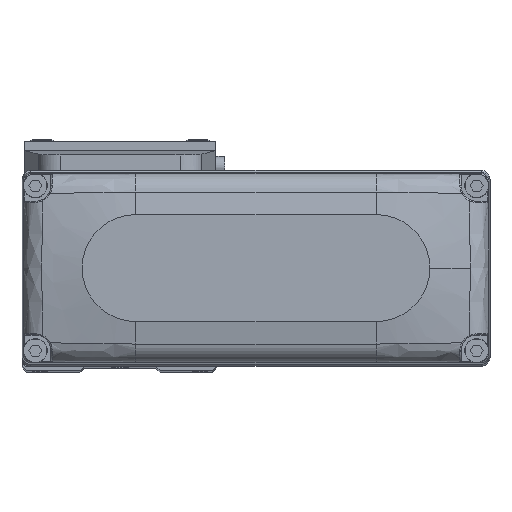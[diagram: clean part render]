
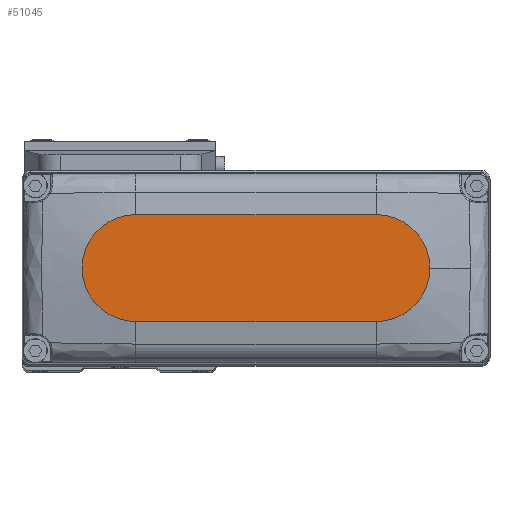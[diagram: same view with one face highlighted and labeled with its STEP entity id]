
A CAD part, top view. The second image highlights one B-rep face of the part: STEP entity #51045.
In plain terms, the highlighted planar face has unit normal (0, 0, 1).
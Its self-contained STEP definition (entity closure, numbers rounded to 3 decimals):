
#574 = EDGE_CURVE ( 'NONE', #75631, #54380, #63218, .T. ) ;
#3008 = DIRECTION ( 'NONE',  ( 0., 0., 1. ) ) ;
#3553 = ORIENTED_EDGE ( 'NONE', *, *, #41425, .T. ) ;
#4209 = VECTOR ( 'NONE', #33544, 1000. ) ;
#5613 = AXIS2_PLACEMENT_3D ( 'NONE', #36016, #59795, #6460 ) ;
#6460 = DIRECTION ( 'NONE',  ( 1., 0., 0. ) ) ;
#8848 = FACE_OUTER_BOUND ( 'NONE', #19344, .T. ) ;
#9842 = CARTESIAN_POINT ( 'NONE',  ( -27., -12., 25. ) ) ;
#10450 = AXIS2_PLACEMENT_3D ( 'NONE', #73897, #20470, #44212 ) ;
#11883 = CARTESIAN_POINT ( 'NONE',  ( -27., 0., 25. ) ) ;
#11990 = ORIENTED_EDGE ( 'NONE', *, *, #73526, .T. ) ;
#15288 = CIRCLE ( 'NONE', #58817, 12. ) ;
#18138 = EDGE_CURVE ( 'NONE', #39945, #36575, #34010, .T. ) ;
#18355 = LINE ( 'NONE', #42113, #28056 ) ;
#19344 = EDGE_LOOP ( 'NONE', ( #27403, #11990, #22301, #3553, #72314 ) ) ;
#20470 = DIRECTION ( 'NONE',  ( 0., 0., 1. ) ) ;
#22301 = ORIENTED_EDGE ( 'NONE', *, *, #574, .T. ) ;
#26698 = DIRECTION ( 'NONE',  ( 1., 0., 0. ) ) ;
#27403 = ORIENTED_EDGE ( 'NONE', *, *, #57785, .T. ) ;
#28056 = VECTOR ( 'NONE', #65938, 1000. ) ;
#31985 = CARTESIAN_POINT ( 'NONE',  ( 27., -12., 25. ) ) ;
#32546 = PLANE ( 'NONE',  #47126 ) ;
#33544 = DIRECTION ( 'NONE',  ( 1., 0., 0. ) ) ;
#34010 = CIRCLE ( 'NONE', #10450, 12. ) ;
#35591 = DIRECTION ( 'NONE',  ( 0., 0., 1. ) ) ;
#36016 = CARTESIAN_POINT ( 'NONE',  ( 27., 0., 25. ) ) ;
#36575 = VERTEX_POINT ( 'NONE', #46437 ) ;
#39163 = CIRCLE ( 'NONE', #5613, 12. ) ;
#39945 = VERTEX_POINT ( 'NONE', #71067 ) ;
#41425 = EDGE_CURVE ( 'NONE', #54380, #39945, #39163, .T. ) ;
#42113 = CARTESIAN_POINT ( 'NONE',  ( -27., 12., 25. ) ) ;
#44212 = DIRECTION ( 'NONE',  ( 1., 0., 0. ) ) ;
#46437 = CARTESIAN_POINT ( 'NONE',  ( 27., 12., 25. ) ) ;
#47126 = AXIS2_PLACEMENT_3D ( 'NONE', #56337, #3008, #26698 ) ;
#49888 = CARTESIAN_POINT ( 'NONE',  ( -27., -12., 25. ) ) ;
#51045 = ADVANCED_FACE ( 'NONE', ( #8848 ), #32546, .T. ) ;
#53682 = VERTEX_POINT ( 'NONE', #68979 ) ;
#54380 = VERTEX_POINT ( 'NONE', #31985 ) ;
#56337 = CARTESIAN_POINT ( 'NONE',  ( 0., 0., 25. ) ) ;
#57785 = EDGE_CURVE ( 'NONE', #36575, #53682, #18355, .T. ) ;
#58817 = AXIS2_PLACEMENT_3D ( 'NONE', #11883, #35591, #59376 ) ;
#59376 = DIRECTION ( 'NONE',  ( 1., 0., 0. ) ) ;
#59795 = DIRECTION ( 'NONE',  ( 0., 0., 1. ) ) ;
#63218 = LINE ( 'NONE', #9842, #4209 ) ;
#65938 = DIRECTION ( 'NONE',  ( -1., 0., 0. ) ) ;
#68979 = CARTESIAN_POINT ( 'NONE',  ( -27., 12., 25. ) ) ;
#71067 = CARTESIAN_POINT ( 'NONE',  ( 39., 0., 25. ) ) ;
#72314 = ORIENTED_EDGE ( 'NONE', *, *, #18138, .T. ) ;
#73526 = EDGE_CURVE ( 'NONE', #53682, #75631, #15288, .T. ) ;
#73897 = CARTESIAN_POINT ( 'NONE',  ( 27., 0., 25. ) ) ;
#75631 = VERTEX_POINT ( 'NONE', #49888 ) ;
